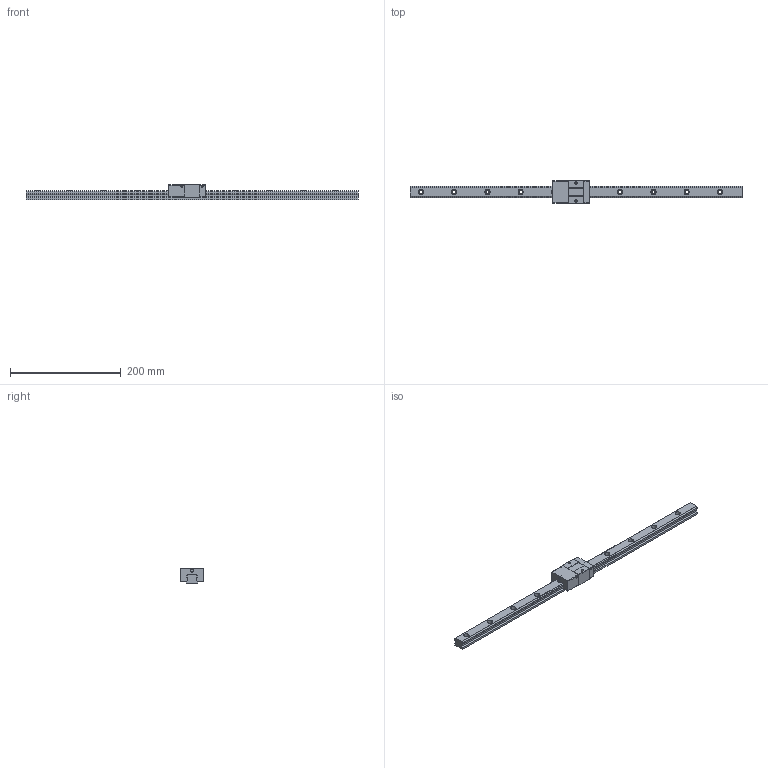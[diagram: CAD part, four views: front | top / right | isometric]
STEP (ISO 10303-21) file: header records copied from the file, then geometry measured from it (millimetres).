
FILE_DESCRIPTION (( 'STEP AP203' ), '1' );
FILE_NAME ('TRS20VS-BN.STEP', '2024-07-11T09:17:09', ( '' ), ( '' ), 'SwSTEP 2.0', 'SolidWorks 2022', '' );
FILE_SCHEMA (( 'CONFIG_CONTROL_DESIGN' ));
Length unit declared in the file: millimetre
Products named in the file (1): TRS20VS-BN
Bounding box: 600 x 42 x 28 mm (x, y, z)
Volume: 217399.5 mm3; surface area: 61854.7 mm2
Topology: 2 solids, 2 shells, 186 faces, 484 edges, 320 vertices
Faces by surface type: plane 94, cylinder 92
Entity records: 5863 total; most frequent: DIRECTION 1042, CARTESIAN_POINT 991, ORIENTED_EDGE 968, EDGE_CURVE 484, AXIS2_PLACEMENT_3D 371, VERTEX_POINT 320, LINE 300, VECTOR 300
